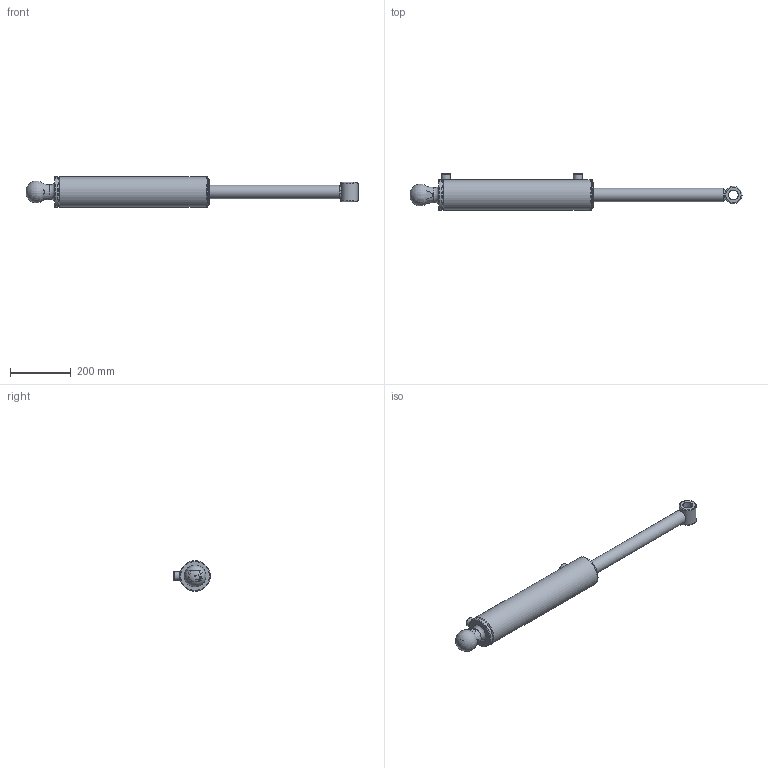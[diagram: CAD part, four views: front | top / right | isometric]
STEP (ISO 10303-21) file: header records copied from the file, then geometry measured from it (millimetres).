
FILE_DESCRIPTION(/* description */ ('Alibre Inc.'),/* implementation_level */ '2;1');
FILE_NAME(/* name */ 'export0',/* time_stamp */ '2016-08-16T10:04:14+12:00',/* author */ (''),/* organization */ (''),/* preprocessor_version */ 'ST-DEVELOPER v14',/* originating_system */ 'Alibre',/* authorisation */ '');
FILE_SCHEMA (('AUTOMOTIVE_DESIGN'));
Length unit declared in the file: centimetre
Bounding box: 1096.89 x 121.6 x 101.6 mm (x, y, z)
Volume: 2717748.2 mm3; surface area: 578454.6 mm2
Topology: 12 solids, 12 shells, 148 faces, 306 edges, 191 vertices
Faces by surface type: cylinder 57, plane 48, cone 26, torus 16, bspline 1
Full cylindrical faces by diameter (mm): 7 x1, 8.3 x2, 8.4 x1, 12.7 x2, 19.1 x2, 29.35 x1, 29.972 x1, 30 x2, 31.75 x1, 31.8 x1, 31.801 x1, 44.45 x2, 44.53 x2, 50.8 x1, 53.25 x2, 53.97 x2, 57.15 x1, 73.03 x1, 81.9 x1, 83.06 x1, 84.3 x2, 85.27 x2, 85.5 x1, 87.53 x2, 88.75 x1, 88.79 x2, 88.9 x2, 92.1 x1, 101.6 x3
Entity records: 4071 total; most frequent: CARTESIAN_POINT 1180, DIRECTION 562, ORIENTED_EDGE 372, AXIS2_PLACEMENT_3D 297, FACE_BOUND 270, EDGE_LOOP 267, EDGE_CURVE 186, VERTEX_POINT 166
